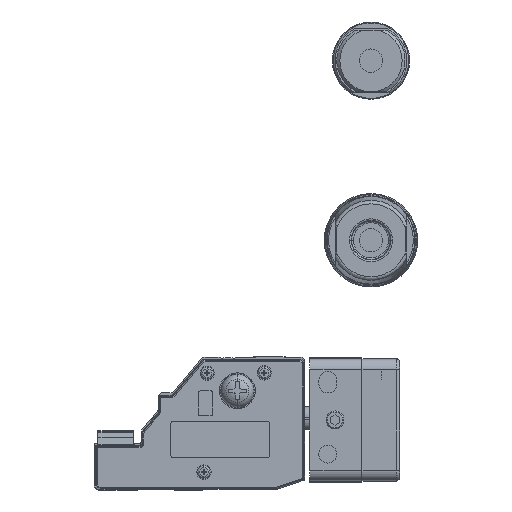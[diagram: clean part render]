
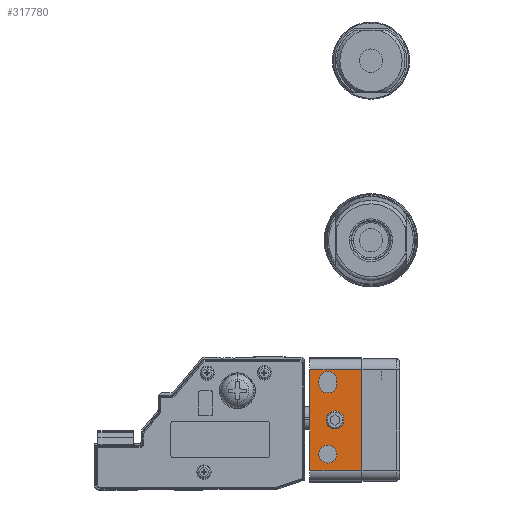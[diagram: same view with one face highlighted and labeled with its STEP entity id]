
A CAD part, left-side view. The second image highlights one B-rep face of the part: STEP entity #317780.
In plain terms, the highlighted planar face has unit normal (-1, 0, 0) as drawn and (0, 0, -1) by its records, which use the part's own axes.
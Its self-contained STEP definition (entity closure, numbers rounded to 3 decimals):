
#316730=CARTESIAN_POINT('',(-201.714,217.373,
0.));
#316740=DIRECTION('',(-0.,-0.,-1.));
#316750=DIRECTION('',(0.,-1.,0.));
#316760=AXIS2_PLACEMENT_3D('',#316730,#316740,#316750);
#316770=PLANE('',#316760);
#316780=CARTESIAN_POINT('',(-191.714,212.373,
0.));
#316790=DIRECTION('',(0.,0.,-1.));
#316800=DIRECTION('',(-1.,0.,0.));
#316810=AXIS2_PLACEMENT_3D('',#316780,#316790,#316800);
#316820=CIRCLE('',#316810,2.5);
#316830=CARTESIAN_POINT('',(-191.714,209.873,
0.));
#316840=VERTEX_POINT('',#316830);
#316850=CARTESIAN_POINT('',(-191.714,214.873,
0.));
#316860=VERTEX_POINT('',#316850);
#316870=EDGE_CURVE('',#316840,#316860,#316820,.T.);
#316880=ORIENTED_EDGE('',*,*,#316870,.F.);
#316890=CARTESIAN_POINT('',(0.,214.873,0.));
#316900=DIRECTION('',(-1.,0.,0.));
#316910=VECTOR('',#316900,1.);
#316920=LINE('',#316890,#316910);
#316930=CARTESIAN_POINT('',(-190.714,214.873,
0.));
#316940=VERTEX_POINT('',#316930);
#316950=EDGE_CURVE('',#316940,#316860,#316920,.T.);
#316960=ORIENTED_EDGE('',*,*,#316950,.T.);
#316970=CARTESIAN_POINT('',(-190.714,212.373,
0.));
#316980=DIRECTION('',(0.,0.,-1.));
#316990=DIRECTION('',(-1.,0.,0.));
#317000=AXIS2_PLACEMENT_3D('',#316970,#316980,#316990);
#317010=CIRCLE('',#317000,2.5);
#317020=CARTESIAN_POINT('',(-190.714,209.873,
0.));
#317030=VERTEX_POINT('',#317020);
#317040=EDGE_CURVE('',#316940,#317030,#317010,.T.);
#317050=ORIENTED_EDGE('',*,*,#317040,.F.);
#317060=CARTESIAN_POINT('',(0.,209.873,0.));
#317070=DIRECTION('',(1.,0.,0.));
#317080=VECTOR('',#317070,1.);
#317090=LINE('',#317060,#317080);
#317100=EDGE_CURVE('',#316840,#317030,#317090,.T.);
#317110=ORIENTED_EDGE('',*,*,#317100,.T.);
#317120=EDGE_LOOP('',(#317110,#317050,#316960,#316880));
#317130=FACE_BOUND('',#317120,.T.);
#317140=CARTESIAN_POINT('',(-171.214,212.373,
0.));
#317150=DIRECTION('',(0.,0.,-1.));
#317160=DIRECTION('',(-1.,0.,0.));
#317170=AXIS2_PLACEMENT_3D('',#317140,#317150,#317160);
#317180=CIRCLE('',#317170,2.5);
#317190=CARTESIAN_POINT('',(-173.714,212.373,
0.));
#317200=VERTEX_POINT('',#317190);
#317210=CARTESIAN_POINT('',(-168.714,212.373,
0.));
#317220=VERTEX_POINT('',#317210);
#317230=EDGE_CURVE('',#317200,#317220,#317180,.T.);
#317240=ORIENTED_EDGE('',*,*,#317230,.F.);
#317250=EDGE_CURVE('',#317220,#317200,#317180,.T.);
#317260=ORIENTED_EDGE('',*,*,#317250,.F.);
#317270=EDGE_LOOP('',(#317260,#317240));
#317280=FACE_BOUND('',#317270,.T.);
#317290=CARTESIAN_POINT('',(-180.714,210.373,
0.));
#317300=DIRECTION('',(0.,0.,-1.));
#317310=DIRECTION('',(-1.,0.,0.));
#317320=AXIS2_PLACEMENT_3D('',#317290,#317300,#317310);
#317330=CIRCLE('',#317320,2.5);
#317340=CARTESIAN_POINT('',(-183.214,210.373,
0.));
#317350=VERTEX_POINT('',#317340);
#317360=CARTESIAN_POINT('',(-178.214,210.373,
0.));
#317370=VERTEX_POINT('',#317360);
#317380=EDGE_CURVE('',#317350,#317370,#317330,.T.);
#317390=ORIENTED_EDGE('',*,*,#317380,.F.);
#317400=EDGE_CURVE('',#317370,#317350,#317330,.T.);
#317410=ORIENTED_EDGE('',*,*,#317400,.F.);
#317420=EDGE_LOOP('',(#317410,#317390));
#317430=FACE_BOUND('',#317420,.T.);
#317440=CARTESIAN_POINT('',(-166.714,-2.,0.));
#317450=DIRECTION('',(0.,1.,0.));
#317460=VECTOR('',#317450,1.);
#317470=LINE('',#317440,#317460);
#317480=CARTESIAN_POINT('',(-166.714,203.073,
0.));
#317490=VERTEX_POINT('',#317480);
#317500=CARTESIAN_POINT('',(-166.714,217.373,
0.));
#317510=VERTEX_POINT('',#317500);
#317520=EDGE_CURVE('',#317490,#317510,#317470,.T.);
#317530=ORIENTED_EDGE('',*,*,#317520,.F.);
#317540=CARTESIAN_POINT('',(0.,217.373,0.));
#317550=DIRECTION('',(-1.,0.,0.));
#317560=VECTOR('',#317550,1.);
#317570=LINE('',#317540,#317560);
#317580=CARTESIAN_POINT('',(-194.714,217.373,
0.));
#317590=VERTEX_POINT('',#317580);
#317600=EDGE_CURVE('',#317510,#317590,#317570,.T.);
#317610=ORIENTED_EDGE('',*,*,#317600,.F.);
#317620=CARTESIAN_POINT('',(-194.714,-2.,0.));
#317630=DIRECTION('',(0.,-1.,0.));
#317640=VECTOR('',#317630,1.);
#317650=LINE('',#317620,#317640);
#317660=CARTESIAN_POINT('',(-194.714,203.073,
0.));
#317670=VERTEX_POINT('',#317660);
#317680=EDGE_CURVE('',#317590,#317670,#317650,.T.);
#317690=ORIENTED_EDGE('',*,*,#317680,.F.);
#317700=CARTESIAN_POINT('',(0.,203.073,0.));
#317710=DIRECTION('',(-1.,0.,0.));
#317720=VECTOR('',#317710,1.);
#317730=LINE('',#317700,#317720);
#317740=EDGE_CURVE('',#317490,#317670,#317730,.T.);
#317750=ORIENTED_EDGE('',*,*,#317740,.T.);
#317760=EDGE_LOOP('',(#317750,#317690,#317610,#317530));
#317770=FACE_OUTER_BOUND('',#317760,.T.);
#317780=ADVANCED_FACE('',(#317130,#317280,#317430,#317770),#316770,.T.);
